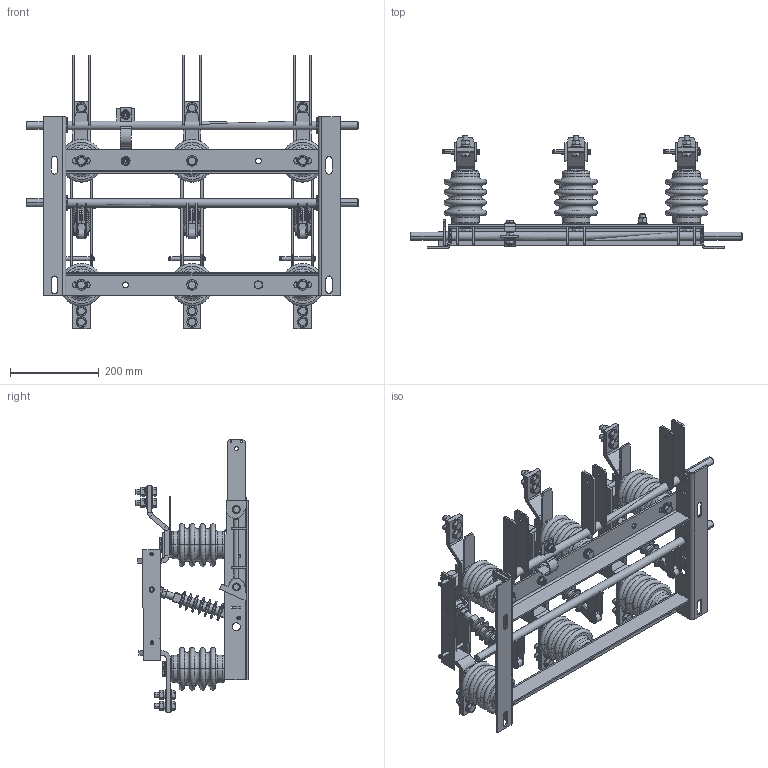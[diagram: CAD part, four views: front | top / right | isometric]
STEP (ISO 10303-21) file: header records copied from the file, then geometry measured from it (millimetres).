
FILE_DESCRIPTION (( 'STEP AP214' ), '1' );
FILE_NAME ('Ðàçúåäèíèòåëü âûñîêîâîëüòíûé ÐÂÇ-101000-II-È2-ÌÏ250-ÓÕË2-ÊÝÀÇ.STEP', '2023-02-06T07:08:06', ( '' ), ( '' ), 'SwSTEP 2.0', 'SolidWorks 2018', '' );
FILE_SCHEMA (( 'AUTOMOTIVE_DESIGN' ));
Length unit declared in the file: millimetre
Products named in the file (1): Ðàçúåäèíèòåëü âûñîêîâîëüòíûé ÐÂÇ-101000-II-È2-ÌÏ250-ÓÕË2-ÊÝÀÇ
Bounding box: 750 x 256.27 x 617.51 mm (x, y, z)
Volume: 6383290.9 mm3; surface area: 1324524.3 mm2
Topology: 1 solids, 21 shells, 2660 faces, 6316 edges, 3918 vertices
Faces by surface type: plane 1297, cylinder 818, cone 359, torus 186
Full cylindrical faces by diameter (mm): 9.732 x2, 9.786 x2, 12.35 x12, 13.36 x1, 14.572 x4, 15.2 x5, 15.325 x1, 15.733 x1, 17.1 x3, 19.299 x4, 19.723 x4
Entity records: 97017 total; most frequent: CARTESIAN_POINT 36366, DIRECTION 12623, ORIENTED_EDGE 12468, EDGE_CURVE 6234, AXIS2_PLACEMENT_3D 4927, VERTEX_POINT 3881, EDGE_LOOP 3091, VECTOR 2769
